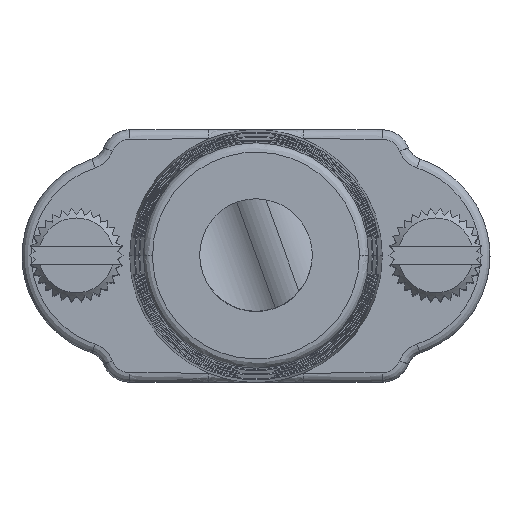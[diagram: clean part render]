
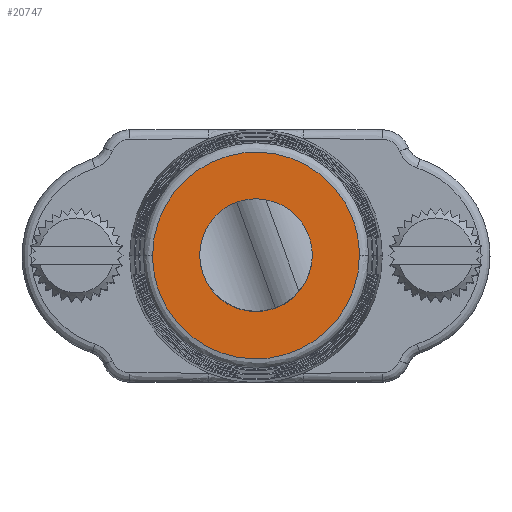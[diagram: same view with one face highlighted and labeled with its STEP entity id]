
A CAD part, top view. The second image highlights one B-rep face of the part: STEP entity #20747.
In plain terms, the highlighted planar face has unit normal (0, 0, 1).
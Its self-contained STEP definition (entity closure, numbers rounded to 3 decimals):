
#815 = DIRECTION ( 'NONE',  ( -1., 0., 0. ) ) ;
#958 = DIRECTION ( 'NONE',  ( 0., 0., -1. ) ) ;
#3623 = CARTESIAN_POINT ( 'NONE',  ( 5.524, 0., 37.5 ) ) ;
#4005 = CARTESIAN_POINT ( 'NONE',  ( -5.524, 0., 37.5 ) ) ;
#4082 = AXIS2_PLACEMENT_3D ( 'NONE', #22464, #958, #815 ) ;
#4107 = EDGE_LOOP ( 'NONE', ( #10112, #23750 ) ) ;
#5325 = CARTESIAN_POINT ( 'NONE',  ( -5.524, 0., 37.5 ) ) ;
#5673 =( BOUNDED_CURVE ( )  B_SPLINE_CURVE ( 3, ( #5325, #22219, #17308, #3623 ),
 .UNSPECIFIED., .F., .F. ) 
 B_SPLINE_CURVE_WITH_KNOTS ( ( 4, 4 ),
 ( 0., 0.5 ),
 .UNSPECIFIED. ) 
 CURVE ( )  GEOMETRIC_REPRESENTATION_ITEM ( )  RATIONAL_B_SPLINE_CURVE ( ( 1., 0.333, 0.333, 1. ) ) 
 REPRESENTATION_ITEM ( '' )  );
#6316 = CARTESIAN_POINT ( 'NONE',  ( 5.524, -11.049, 37.5 ) ) ;
#10112 = ORIENTED_EDGE ( 'NONE', *, *, #28915, .F. ) ;
#10790 = PLANE ( 'NONE',  #4082 ) ;
#13095 = FACE_OUTER_BOUND ( 'NONE', #4107, .T. ) ;
#13129 =( BOUNDED_CURVE ( )  B_SPLINE_CURVE ( 3, ( #22452, #6316, #25066, #4005 ),
 .UNSPECIFIED., .F., .F. ) 
 B_SPLINE_CURVE_WITH_KNOTS ( ( 4, 4 ),
 ( 0.5, 1. ),
 .UNSPECIFIED. ) 
 CURVE ( )  GEOMETRIC_REPRESENTATION_ITEM ( )  RATIONAL_B_SPLINE_CURVE ( ( 1., 0.333, 0.333, 1. ) ) 
 REPRESENTATION_ITEM ( '' )  );
#17308 = CARTESIAN_POINT ( 'NONE',  ( 5.524, 11.049, 37.5 ) ) ;
#17824 = VERTEX_POINT ( 'NONE', #19954 ) ;
#18173 = VERTEX_POINT ( 'NONE', #27440 ) ;
#19954 = CARTESIAN_POINT ( 'NONE',  ( 5.524, 0., 37.5 ) ) ;
#20747 = ADVANCED_FACE ( 'NONE', ( #13095 ), #10790, .F. ) ;
#22219 = CARTESIAN_POINT ( 'NONE',  ( -5.524, 11.049, 37.5 ) ) ;
#22452 = CARTESIAN_POINT ( 'NONE',  ( 5.524, 0., 37.5 ) ) ;
#22464 = CARTESIAN_POINT ( 'NONE',  ( 0., 0., 37.5 ) ) ;
#23750 = ORIENTED_EDGE ( 'NONE', *, *, #26658, .F. ) ;
#25066 = CARTESIAN_POINT ( 'NONE',  ( -5.524, -11.049, 37.5 ) ) ;
#26658 = EDGE_CURVE ( 'NONE', #17824, #18173, #13129, .T. ) ;
#27440 = CARTESIAN_POINT ( 'NONE',  ( -5.524, 0., 37.5 ) ) ;
#28915 = EDGE_CURVE ( 'NONE', #18173, #17824, #5673, .T. ) ;
